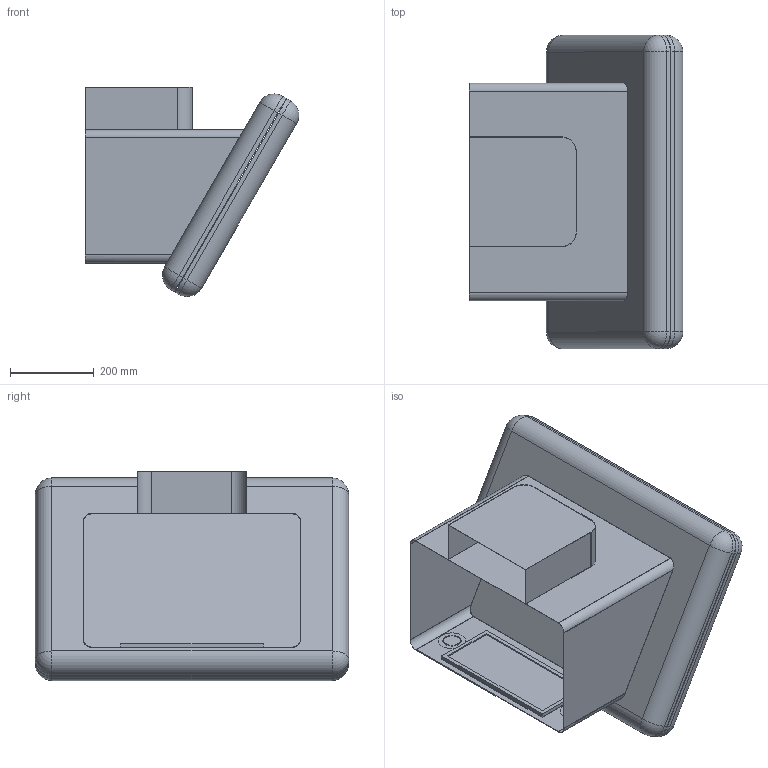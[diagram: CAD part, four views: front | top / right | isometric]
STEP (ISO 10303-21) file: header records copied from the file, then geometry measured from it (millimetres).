
FILE_DESCRIPTION(('CATIA V5 STEP Exchange'),'2;1');
FILE_NAME('\\sr02\Apell\Disegni\DISEGNI\SMEG\CAPPE\KFAB75BL\Assiemi\BIM\KFAB75BL.stp','2018-02-16T13:13:24+00:00',('none'),('none'),'CATIA Version 5-6 Release 2014','CATIA V5 STEP AP203','none');
FILE_SCHEMA(('CONFIG_CONTROL_DESIGN'));
Length unit declared in the file: millimetre
Products named in the file (1): KFAB75
Bounding box: 511.45 x 750 x 500.65 mm (x, y, z)
Volume: 7146534.6 mm3; surface area: 3158926 mm2
Topology: 7 solids, 7 shells, 169 faces, 394 edges, 236 vertices
Faces by surface type: plane 85, cylinder 68, sphere 16
Entity records: 4554 total; most frequent: CARTESIAN_POINT 883, ORIENTED_EDGE 756, DIRECTION 657, EDGE_CURVE 378, AXIS2_PLACEMENT_3D 276, VERTEX_POINT 236, VECTOR 233, LINE 233
